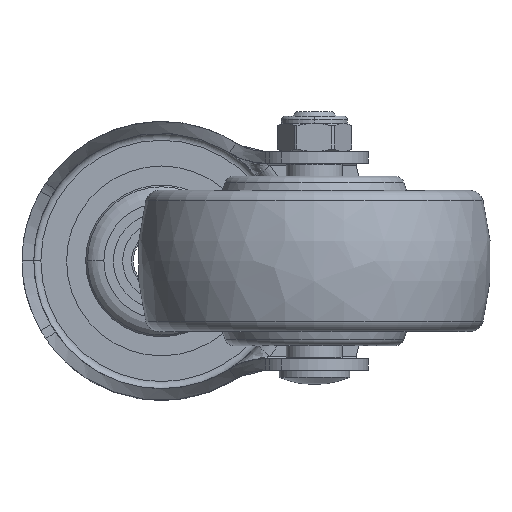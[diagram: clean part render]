
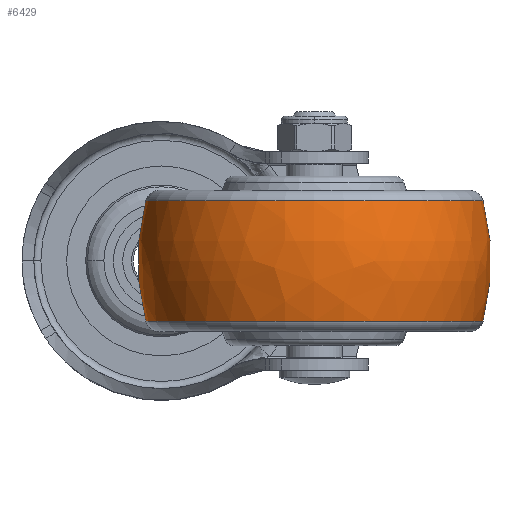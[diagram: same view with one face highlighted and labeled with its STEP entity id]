
A CAD part, front view. The second image highlights one B-rep face of the part: STEP entity #6429.
In plain terms, the highlighted free-form (B-spline) face has degree [3, 3] with [7, 4] control points.
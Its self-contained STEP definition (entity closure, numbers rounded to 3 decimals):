
#5899=CARTESIAN_POINT('',(0.,-12.5,0.));
#5900=DIRECTION('',(0.,0.,1.));
#5901=DIRECTION('',(0.255,0.967,0.));
#5902=AXIS2_PLACEMENT_3D('',#5899,#5900,#5901);
#5904=CARTESIAN_POINT('',(0.,12.5,0.));
#5905=DIRECTION('',(0.,0.,-1.));
#5906=DIRECTION('',(0.255,-0.967,0.));
#5907=AXIS2_PLACEMENT_3D('',#5904,#5905,#5906);
#5909=CARTESIAN_POINT('',(12.756,0.,0.));
#5910=DIRECTION('',(-1.,0.,0.));
#5911=DIRECTION('',(0.,1.,0.));
#5912=AXIS2_PLACEMENT_3D('',#5909,#5910,#5911);
#5924=CARTESIAN_POINT('',(-12.766,0.,0.));
#5925=DIRECTION('',(-1.,0.,0.));
#5926=DIRECTION('',(0.,1.,0.));
#5927=AXIS2_PLACEMENT_3D('',#5924,#5925,#5926);
#6264=CARTESIAN_POINT('',(12.756,35.845,0.));
#6265=CARTESIAN_POINT('',(-12.766,35.843,0.));
#6266=VERTEX_POINT('',#6264);
#6267=VERTEX_POINT('',#6265);
#6308=CARTESIAN_POINT('',(12.756,-35.845,0.));
#6309=CARTESIAN_POINT('',(-12.766,-35.843,0.));
#6310=VERTEX_POINT('',#6308);
#6311=VERTEX_POINT('',#6309);
#6392=CARTESIAN_POINT('',(-13.264,-35.638,
2.242));
#6393=CARTESIAN_POINT('',(-4.533,-38.036,
2.393));
#6394=CARTESIAN_POINT('',(4.523,-38.037,2.393));
#6395=CARTESIAN_POINT('',(13.255,-35.641,2.242));
#6396=CARTESIAN_POINT('',(-13.264,-37.018,
-19.689));
#6397=CARTESIAN_POINT('',(-4.533,-39.508,
-21.014));
#6398=CARTESIAN_POINT('',(4.523,-39.509,
-21.015));
#6399=CARTESIAN_POINT('',(13.255,-37.021,
-19.691));
#6400=CARTESIAN_POINT('',(-13.264,-21.975,
-35.708));
#6401=CARTESIAN_POINT('',(-4.533,-23.453,
-38.111));
#6402=CARTESIAN_POINT('',(4.523,-23.454,
-38.112));
#6403=CARTESIAN_POINT('',(13.255,-21.977,
-35.711));
#6404=CARTESIAN_POINT('',(-13.264,0.,
-35.708));
#6405=CARTESIAN_POINT('',(-4.533,0.,
-38.111));
#6406=CARTESIAN_POINT('',(4.523,0.,-38.112));
#6407=CARTESIAN_POINT('',(13.255,0.,
-35.711));
#6408=CARTESIAN_POINT('',(-13.264,21.975,
-35.708));
#6409=CARTESIAN_POINT('',(-4.533,23.453,
-38.111));
#6410=CARTESIAN_POINT('',(4.523,23.454,-38.112));
#6411=CARTESIAN_POINT('',(13.255,21.977,-35.711));
#6412=CARTESIAN_POINT('',(-13.264,37.018,
-19.689));
#6413=CARTESIAN_POINT('',(-4.533,39.508,
-21.014));
#6414=CARTESIAN_POINT('',(4.523,39.509,-21.015));
#6415=CARTESIAN_POINT('',(13.255,37.021,-19.691));
#6416=CARTESIAN_POINT('',(-13.264,35.638,2.242));
#6417=CARTESIAN_POINT('',(-4.533,38.036,2.393));
#6418=CARTESIAN_POINT('',(4.523,38.037,2.393));
#6419=CARTESIAN_POINT('',(13.255,35.641,2.242));
#6420=(BOUNDED_SURFACE()B_SPLINE_SURFACE(3,3,((#6392,#6393,#6394,#6395),(#6396,
#6397,#6398,#6399),(#6400,#6401,#6402,#6403),(#6404,#6405,#6406,#6407),(#6408,
#6409,#6410,#6411),(#6412,#6413,#6414,#6415),(#6416,#6417,#6418,#6419)),
.UNSPECIFIED.,.F.,.F.,.F.)B_SPLINE_SURFACE_WITH_KNOTS((4,3,4),(4,4),(0.,1.,
2.),(0.,1.),.UNSPECIFIED.)GEOMETRIC_REPRESENTATION_ITEM()RATIONAL_B_SPLINE_SURFACE(((1.209,1.18,1.18,1.209),(
0.955,0.932,0.932,0.955),(
0.955,0.932,0.932,0.955),(
1.209,1.18,1.18,1.209),(
0.955,0.932,0.932,0.955),(
0.955,0.932,0.932,0.955),(
1.209,1.18,1.18,1.209)))REPRESENTATION_ITEM('')SURFACE());
#6421=ORIENTED_EDGE('',*,*,#6381,.T.);
#6423=ORIENTED_EDGE('',*,*,#6422,.T.);
#6424=ORIENTED_EDGE('',*,*,#6385,.F.);
#6426=ORIENTED_EDGE('',*,*,#6425,.F.);
#6427=EDGE_LOOP('',(#6421,#6423,#6424,#6426));
#6428=FACE_OUTER_BOUND('',#6427,.F.);
#5903=CIRCLE('',#5902,50.);
#5908=CIRCLE('',#5907,50.);
#5913=CIRCLE('',#5912,35.845);
#5928=CIRCLE('',#5927,35.843);
#6381=EDGE_CURVE('',#6266,#6267,#5903,.T.);
#6385=EDGE_CURVE('',#6310,#6311,#5908,.T.);
#6422=EDGE_CURVE('',#6267,#6311,#5928,.T.);
#6425=EDGE_CURVE('',#6266,#6310,#5913,.T.);
#6429=ADVANCED_FACE('',(#6428),#6420,.T.);
